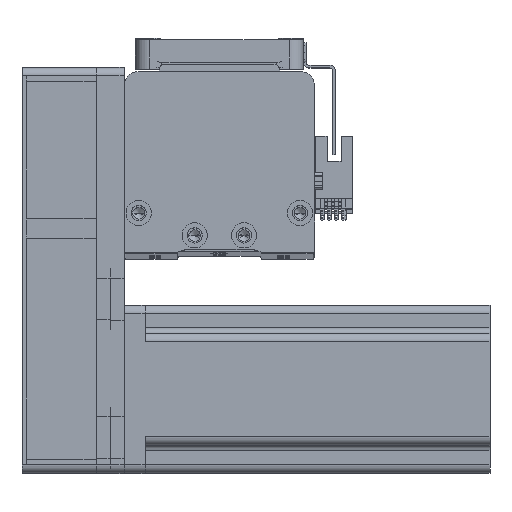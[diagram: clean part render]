
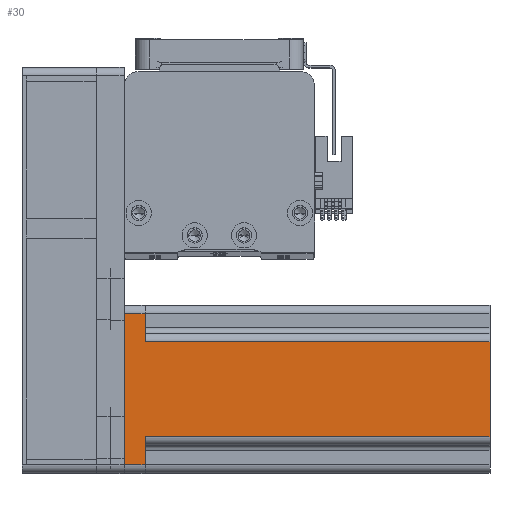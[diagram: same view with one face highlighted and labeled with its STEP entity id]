
A CAD part, top view. The second image highlights one B-rep face of the part: STEP entity #30.
In plain terms, the highlighted planar face has unit normal (0, 0, 1) as drawn and (0, -1, 0) by its records, which use the part's own axes.
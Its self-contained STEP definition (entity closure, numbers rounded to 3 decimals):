
#30 = ADVANCED_FACE ( 'NONE', ( #19240 ), #19088, .F. ) ;
#566 = DIRECTION ( 'NONE',  ( -1., 0., 0. ) ) ;
#702 = VECTOR ( 'NONE', #32322, 1000. ) ;
#1451 = VERTEX_POINT ( 'NONE', #22067 ) ;
#2269 = ORIENTED_EDGE ( 'NONE', *, *, #38140, .T. ) ;
#3555 = EDGE_LOOP ( 'NONE', ( #8876, #40273, #4397, #2269, #29391, #3877, #38602, #46596 ) ) ;
#3713 = EDGE_CURVE ( 'NONE', #10442, #1451, #25782, .T. ) ;
#3877 = ORIENTED_EDGE ( 'NONE', *, *, #39775, .T. ) ;
#4151 = VECTOR ( 'NONE', #566, 1000. ) ;
#4397 = ORIENTED_EDGE ( 'NONE', *, *, #41547, .F. ) ;
#4602 = LINE ( 'NONE', #12836, #13530 ) ;
#4865 = DIRECTION ( 'NONE',  ( 1., 0., 0. ) ) ;
#5577 = VECTOR ( 'NONE', #16804, 1000. ) ;
#5846 = VERTEX_POINT ( 'NONE', #17518 ) ;
#5868 = CARTESIAN_POINT ( 'NONE',  ( 27., -30., 7.5 ) ) ;
#6242 = DIRECTION ( 'NONE',  ( -1., 0., 0. ) ) ;
#6993 = VECTOR ( 'NONE', #4865, 1000. ) ;
#7708 = CARTESIAN_POINT ( 'NONE',  ( -27., -30., 0. ) ) ;
#8876 = ORIENTED_EDGE ( 'NONE', *, *, #3713, .F. ) ;
#10442 = VERTEX_POINT ( 'NONE', #43452 ) ;
#10853 = LINE ( 'NONE', #47458, #702 ) ;
#12836 = CARTESIAN_POINT ( 'NONE',  ( -17., -30., 130.7 ) ) ;
#13530 = VECTOR ( 'NONE', #35658, 1000. ) ;
#15118 = AXIS2_PLACEMENT_3D ( 'NONE', #28042, #32369, #6242 ) ;
#16804 = DIRECTION ( 'NONE',  ( 1., 0., 0. ) ) ;
#17208 = CARTESIAN_POINT ( 'NONE',  ( -27., -30., 130.7 ) ) ;
#17518 = CARTESIAN_POINT ( 'NONE',  ( -27., -30., 7.5 ) ) ;
#18149 = CARTESIAN_POINT ( 'NONE',  ( 17., -30., 7.5 ) ) ;
#18496 = LINE ( 'NONE', #32626, #38753 ) ;
#19088 = PLANE ( 'NONE',  #15118 ) ;
#19240 = FACE_OUTER_BOUND ( 'NONE', #3555, .T. ) ;
#20004 = VECTOR ( 'NONE', #21001, 1000. ) ;
#20601 = CARTESIAN_POINT ( 'NONE',  ( 30., -30., 130.7 ) ) ;
#20770 = EDGE_CURVE ( 'NONE', #39618, #46421, #43434, .T. ) ;
#21001 = DIRECTION ( 'NONE',  ( 0., 0., -1. ) ) ;
#22067 = CARTESIAN_POINT ( 'NONE',  ( 17., -30., 130.7 ) ) ;
#22095 = CARTESIAN_POINT ( 'NONE',  ( 27., -30., 0. ) ) ;
#23326 = CARTESIAN_POINT ( 'NONE',  ( 20., -30., 7.5 ) ) ;
#25766 = DIRECTION ( 'NONE',  ( 0., 0., 1. ) ) ;
#25782 = LINE ( 'NONE', #20601, #5577 ) ;
#27289 = VERTEX_POINT ( 'NONE', #7708 ) ;
#27756 = VERTEX_POINT ( 'NONE', #22095 ) ;
#28042 = CARTESIAN_POINT ( 'NONE',  ( 30., -30., 130.7 ) ) ;
#28069 = VERTEX_POINT ( 'NONE', #43385 ) ;
#28391 = LINE ( 'NONE', #46602, #6993 ) ;
#29391 = ORIENTED_EDGE ( 'NONE', *, *, #47440, .T. ) ;
#32322 = DIRECTION ( 'NONE',  ( 0., 0., 1. ) ) ;
#32369 = DIRECTION ( 'NONE',  ( 0., 1., 0. ) ) ;
#32626 = CARTESIAN_POINT ( 'NONE',  ( -20., -30., 7.5 ) ) ;
#33001 = VECTOR ( 'NONE', #25766, 1000. ) ;
#35658 = DIRECTION ( 'NONE',  ( 0., 0., -1. ) ) ;
#38140 = EDGE_CURVE ( 'NONE', #5846, #27289, #40279, .T. ) ;
#38602 = ORIENTED_EDGE ( 'NONE', *, *, #20770, .T. ) ;
#38753 = VECTOR ( 'NONE', #47907, 1000. ) ;
#39618 = VERTEX_POINT ( 'NONE', #5868 ) ;
#39775 = EDGE_CURVE ( 'NONE', #27756, #39618, #44302, .T. ) ;
#40273 = ORIENTED_EDGE ( 'NONE', *, *, #47517, .T. ) ;
#40279 = LINE ( 'NONE', #17208, #20004 ) ;
#41224 = EDGE_CURVE ( 'NONE', #46421, #1451, #10853, .T. ) ;
#41547 = EDGE_CURVE ( 'NONE', #5846, #28069, #18496, .T. ) ;
#43385 = CARTESIAN_POINT ( 'NONE',  ( -17., -30., 7.5 ) ) ;
#43434 = LINE ( 'NONE', #23326, #4151 ) ;
#43452 = CARTESIAN_POINT ( 'NONE',  ( -17., -30., 130.7 ) ) ;
#44302 = LINE ( 'NONE', #44777, #33001 ) ;
#44777 = CARTESIAN_POINT ( 'NONE',  ( 27., -30., 130.7 ) ) ;
#46421 = VERTEX_POINT ( 'NONE', #18149 ) ;
#46596 = ORIENTED_EDGE ( 'NONE', *, *, #41224, .T. ) ;
#46602 = CARTESIAN_POINT ( 'NONE',  ( 30., -30., 0. ) ) ;
#47440 = EDGE_CURVE ( 'NONE', #27289, #27756, #28391, .T. ) ;
#47458 = CARTESIAN_POINT ( 'NONE',  ( 17., -30., 130.7 ) ) ;
#47517 = EDGE_CURVE ( 'NONE', #10442, #28069, #4602, .T. ) ;
#47907 = DIRECTION ( 'NONE',  ( 1., 0., 0. ) ) ;
